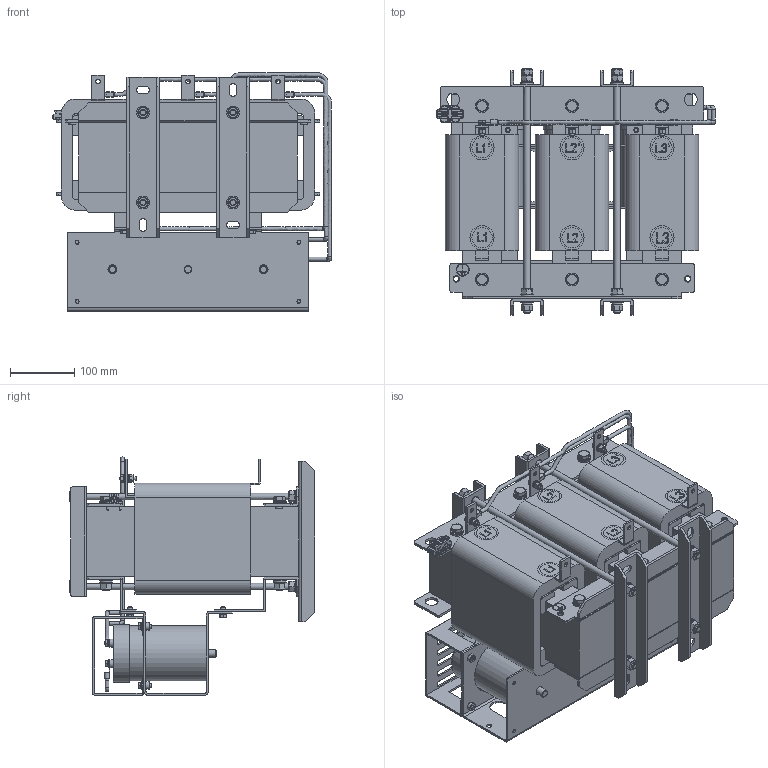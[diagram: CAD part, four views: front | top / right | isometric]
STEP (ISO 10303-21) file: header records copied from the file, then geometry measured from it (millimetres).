
FILE_DESCRIPTION(('STEP AP203'), '1');
FILE_NAME('蔓躅漤铋 耔眢耥 翳朦蝠 _ ISINOF-75_96-6', '', ('UNSPECIFIED'), ('UNSPECIFIED'), 'C3D Converter', 'C3D Toolkit', '');
FILE_SCHEMA(('CONFIG_CONTROL_DESIGN'));
Length unit declared in the file: millimetre
Products named in the file (42): ISINOF-75/96-6; LРНЦ吭X2\04560415\X0\; LРНЦ吭X2\04560415\X0\1; RNB14-6S; 吒X2\0425\X0\86-145; UРН琵X2\042704050415\X0\ 60x30x4; UРНС№Мх 50x25x4; 琵X2\0428\X0\崤X2\043A\X0\; 琵X2\04370418042D0458042C\X0\ ; ёЗЧУ; ЅЗіЕМх10x10x170; ї琵X2\041E\X0\做зЧУKV223-2P; А降еМх340-60-1; БщЅЗВЭЛЁM10; ДёЕЕ琵X2\0436\X0\豹X2\0435\X0\; ДЪДёЕЕ20x3; ИэПаМъРѕ340-330-108ЈЁ60-140; ЙПјРјю400-55-4ЈЁ60-140; НвДёЕЕ20x3; ПВјРјю340-55-4(60-140; ПВјРјю340-55-4(60-140 ЅУ琵X2\0428\X0\; ПЯИ¦96A; plain washers--product grade c gb_GB_FASTENER_WASHER_SMWC 10; spring lock washers--normal type gb_GB_FASTENER_WASHER_SW 10; hexagon nuts grade c gb_GB_FASTENER_NUT_SNC1 M10-N; M10X380; plain washers--product grade c gb_GB_FASTENER_WASHER_SMWC 6; hex head bolts-full thread grade c gb_GB_FASTENER_BOLT_HHBFTC M6X12-N; hex head bolts-full thread grade c gb_GB_FASTENER_BOLT_HHBFTC M6X20-N; spring lock washers--normal type gb_GB_FASTENER_WASHER_SW 6; hexagon nuts grade c gb_GB_FASTENER_NUT_SNC1 M6-N; Cable_1-ХэПТІЁВЛІЁЖчSKS-SF-0096-6AЈЇ05-001; 琵X2\043704100412\X0\^Cable_1-ХэПТІЁВЛІЁЖчSKS-SF-0096-6AЈЇ05-001; Cable_2-ХэПТІЁВЛІЁЖчSKS-SF-0096-6AЈЇ05; 琵X2\043704100412\X0\^Cable_2-ХэПТІЁВЛІЁЖчSKS-SF-0096-6AЈЇ05; Cable_3-ХэПТІЁВЛІЁЖчSKS-SF-0096-6AЈЇ05; 琵X2\043704100412\X0\^Cable_3-ХэПТІЁВЛІЁЖчSKS-SF-0096-6AЈЇ05; Cable_4-ХэПТІЁВЛІЁЖчSKS-SF-0096-6AЈЇ05; 琵X2\043704100412\X0\^Cable_4-ХэПТІЁВЛІЁЖчSKS-SF-0096-6AЈЇ05; hex head bolts-full thread grade c gb_GB_FASTENER_BOLT_HHBFTC M6X16-N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
Assembly tree (194 placements, depth 3):
  ISINOF-75/96-6
    LРНЦ吭X2\04560415\X0\  x2
    LРНЦ吭X2\04560415\X0\1  x2
    RNB14-6S  x9
    吒X2\0425\X0\86-145  x3
    UРН琵X2\042704050415\X0\ 60x30x4  x2
    UРНС№Мх 50x25x4  x2
    琵X2\0428\X0\崤X2\043A\X0\
    琵X2\04370418042D0458042C\X0\ 
    ёЗЧУ
    ЅЗіЕМх10x10x170  x12
    ї琵X2\041E\X0\做зЧУKV223-2P
    А降еМх340-60-1  x6
    БщЅЗВЭЛЁM10  x6
    ДёЕЕ琵X2\0436\X0\豹X2\0435\X0\  x3
    ДЪДёЕЕ20x3  x3
    ИэПаМъРѕ340-330-108ЈЁ60-140
    ЙПјРјю400-55-4ЈЁ60-140  x2
    НвДёЕЕ20x3  x3
    ПВјРјю340-55-4(60-140
    ПВјРјю340-55-4(60-140 ЅУ琵X2\0428\X0\
    ПЯИ¦96A  x3
    plain washers--product grade c gb_GB_FASTENER_WASHER_SMWC 10  x36
    spring lock washers--normal type gb_GB_FASTENER_WASHER_SW 10  x14
    hexagon nuts grade c gb_GB_FASTENER_NUT_SNC1 M10-N  x22
    M10X380  x4
    plain washers--product grade c gb_GB_FASTENER_WASHER_SMWC 6  x20
    hex head bolts-full thread grade c gb_GB_FASTENER_BOLT_HHBFTC M6X12-N  x10
    hex head bolts-full thread grade c gb_GB_FASTENER_BOLT_HHBFTC M6X20-N  x3
    spring lock washers--normal type gb_GB_FASTENER_WASHER_SW 6  x3
    hexagon nuts grade c gb_GB_FASTENER_NUT_SNC1 M6-N  x3
    Cable_1-ХэПТІЁВЛІЁЖчSKS-SF-0096-6AЈЇ05-001
      琵X2\043704100412\X0\^Cable_1-ХэПТІЁВЛІЁЖчSKS-SF-0096-6AЈЇ05-001
    Cable_2-ХэПТІЁВЛІЁЖчSKS-SF-0096-6AЈЇ05
      琵X2\043704100412\X0\^Cable_2-ХэПТІЁВЛІЁЖчSKS-SF-0096-6AЈЇ05
    Cable_3-ХэПТІЁВЛІЁЖчSKS-SF-0096-6AЈЇ05
      琵X2\043704100412\X0\^Cable_3-ХэПТІЁВЛІЁЖчSKS-SF-0096-6AЈЇ05
    Cable_4-ХэПТІЁВЛІЁЖчSKS-SF-0096-6AЈЇ05
      琵X2\043704100412\X0\^Cable_4-ХэПТІЁВЛІЁЖчSKS-SF-0096-6AЈЇ05
    hex head bolts-full thread grade c gb_GB_FASTENER_BOLT_HHBFTC M6X16-N  x4
    L1 L2 L3МщЦЅ
    L1ЎЇ L2Ўｮ L3ЎЇМщЦЅ
Bounding box: 433.92 x 382.6 x 370.68 mm (x, y, z)
Volume: 18377788.4 mm3; surface area: 2748991.7 mm2
Topology: 214 solids, 214 shells, 2652 faces, 6041 edges, 3936 vertices
Faces by surface type: plane 1653, cylinder 688, cone 269, bspline 25, torus 17
Full cylindrical faces by diameter (mm): 3 x2, 3.8 x2, 4 x4, 4.917 x3, 6 x59, 6.2 x9, 6.4 x9, 6.6 x20, 6.68 x3, 7 x9, 8 x8, 8.376 x22, 9.88 x3, 10 x10, 10.9 x14, 11 x38, 12 x27, 12.5 x6, 14 x44, 16.1 x14, 18.2 x1, 19 x1, 20 x41, 31.5 x6, 37.5 x6, 86 x6, 90 x6
Entity records: 60174 total; most frequent: CARTESIAN_POINT 16279, DIRECTION 6079, ORIENTED_EDGE 5594, EDGE_CURVE 2797, AXIS2_PLACEMENT_3D 2132, VERTEX_POINT 1958, LINE 1815, VECTOR 1815
